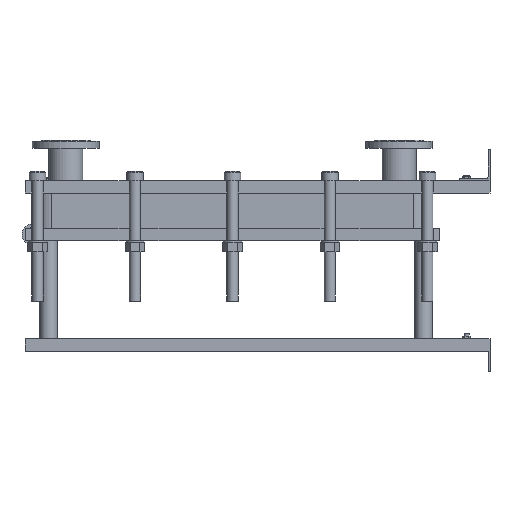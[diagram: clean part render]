
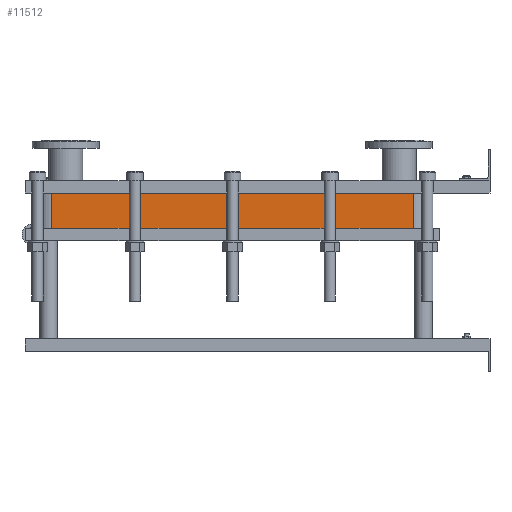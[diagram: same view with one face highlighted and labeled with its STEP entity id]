
A CAD part, left-side view. The second image highlights one B-rep face of the part: STEP entity #11512.
In plain terms, the highlighted planar face has unit normal (-1, 0, 0).
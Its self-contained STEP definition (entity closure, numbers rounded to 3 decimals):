
#1129=LINE('',#23232,#2102);
#1130=LINE('',#23236,#2103);
#1131=LINE('',#23238,#2104);
#1132=LINE('',#23239,#2105);
#2102=VECTOR('',#15887,10.);
#2103=VECTOR('',#15892,10.);
#2104=VECTOR('',#15893,10.);
#2105=VECTOR('',#15894,10.);
#3267=FACE_OUTER_BOUND('',#4093,.T.);
#4093=EDGE_LOOP('',(#10103,#10104,#10105,#10106));
#5642=VERTEX_POINT('',#23229);
#5643=VERTEX_POINT('',#23231);
#5644=VERTEX_POINT('',#23235);
#5645=VERTEX_POINT('',#23237);
#7159=EDGE_CURVE('',#5643,#5642,#1129,.T.);
#7161=EDGE_CURVE('',#5642,#5644,#1130,.T.);
#7162=EDGE_CURVE('',#5645,#5644,#1131,.T.);
#7163=EDGE_CURVE('',#5645,#5643,#1132,.T.);
#10103=ORIENTED_EDGE('',*,*,#7161,.T.);
#10104=ORIENTED_EDGE('',*,*,#7162,.F.);
#10105=ORIENTED_EDGE('',*,*,#7163,.T.);
#10106=ORIENTED_EDGE('',*,*,#7159,.T.);
#10857=PLANE('',#12751);
#11512=ADVANCED_FACE('',(#3267),#10857,.T.);
#12751=AXIS2_PLACEMENT_3D('',#23234,#15890,#15891);
#15887=DIRECTION('',(0.,0.,-1.));
#15890=DIRECTION('center_axis',(-1.,0.,0.));
#15891=DIRECTION('ref_axis',(0.,1.,0.));
#15892=DIRECTION('',(0.,-1.,0.));
#15893=DIRECTION('',(0.,0.,-1.));
#15894=DIRECTION('',(0.,1.,0.));
#23229=CARTESIAN_POINT('',(-200.,1414.,-113.85));
#23231=CARTESIAN_POINT('',(-200.,1414.,0.));
#23232=CARTESIAN_POINT('',(-200.,1414.,0.));
#23234=CARTESIAN_POINT('Origin',(-200.,248.,0.));
#23235=CARTESIAN_POINT('',(-200.,248.,-113.85));
#23236=CARTESIAN_POINT('',(-200.,539.5,-113.85));
#23237=CARTESIAN_POINT('',(-200.,248.,0.));
#23238=CARTESIAN_POINT('',(-200.,248.,0.));
#23239=CARTESIAN_POINT('',(-200.,248.,0.));
